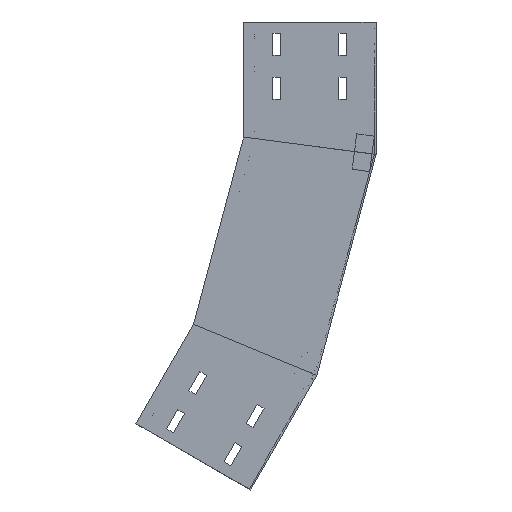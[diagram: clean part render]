
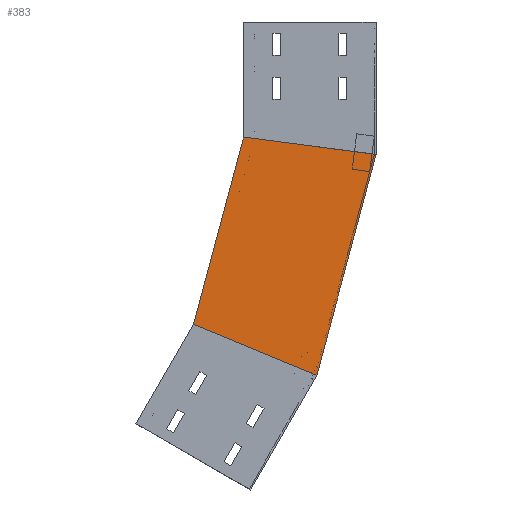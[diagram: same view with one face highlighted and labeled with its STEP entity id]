
A CAD part, left-side view. The second image highlights one B-rep face of the part: STEP entity #383.
In plain terms, the highlighted planar face has unit normal (-1, 0, 0) as drawn and (1, 0, 0) by its records, which use the part's own axes.
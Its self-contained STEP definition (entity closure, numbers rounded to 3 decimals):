
#68 = FACE_OUTER_BOUND ( 'NONE', #1528, .T. ) ;
#81 = LINE ( 'NONE', #882, #321 ) ;
#95 = EDGE_CURVE ( 'NONE', #432, #1406, #1917, .T. ) ;
#321 = VECTOR ( 'NONE', #1649, 1000. ) ;
#383 = ADVANCED_FACE ( 'NONE', ( #68 ), #1190, .F. ) ;
#390 = ORIENTED_EDGE ( 'NONE', *, *, #1698, .T. ) ;
#432 = VERTEX_POINT ( 'NONE', #1692 ) ;
#505 = CARTESIAN_POINT ( 'NONE',  ( 0., 98.267, -387.238 ) ) ;
#510 = ORIENTED_EDGE ( 'NONE', *, *, #1660, .F. ) ;
#588 = VECTOR ( 'NONE', #1837, 1000. ) ;
#698 = CARTESIAN_POINT ( 'NONE',  ( 0., 67.034, -400.175 ) ) ;
#733 = VECTOR ( 'NONE', #979, 1000. ) ;
#882 = CARTESIAN_POINT ( 'NONE',  ( 0., 19.411, -147.444 ) ) ;
#912 = ORIENTED_EDGE ( 'NONE', *, *, #95, .F. ) ;
#949 = LINE ( 'NONE', #1546, #588 ) ;
#979 = DIRECTION ( 'NONE',  ( 0., -0.924, -0.383 ) ) ;
#1067 = AXIS2_PLACEMENT_3D ( 'NONE', #2015, #1257, #1103 ) ;
#1103 = DIRECTION ( 'NONE',  ( 0., 0., 1. ) ) ;
#1186 = DIRECTION ( 'NONE',  ( 0., 0.259, -0.966 ) ) ;
#1190 = PLANE ( 'NONE',  #1067 ) ;
#1257 = DIRECTION ( 'NONE',  ( -1., 0., 0. ) ) ;
#1400 = CARTESIAN_POINT ( 'NONE',  ( 0., 0., -150. ) ) ;
#1406 = VERTEX_POINT ( 'NONE', #698 ) ;
#1508 = CARTESIAN_POINT ( 'NONE',  ( 0., 150., -130.252 ) ) ;
#1528 = EDGE_LOOP ( 'NONE', ( #510, #1915, #390, #912 ) ) ;
#1533 = EDGE_CURVE ( 'NONE', #1593, #1759, #81, .T. ) ;
#1546 = CARTESIAN_POINT ( 'NONE',  ( 0., 0., -150. ) ) ;
#1593 = VERTEX_POINT ( 'NONE', #1508 ) ;
#1649 = DIRECTION ( 'NONE',  ( 0., -0.991, -0.131 ) ) ;
#1660 = EDGE_CURVE ( 'NONE', #1593, #432, #1819, .T. ) ;
#1666 = CARTESIAN_POINT ( 'NONE',  ( 0., 144.889, -111.177 ) ) ;
#1692 = CARTESIAN_POINT ( 'NONE',  ( 0., 206.812, -342.277 ) ) ;
#1698 = EDGE_CURVE ( 'NONE', #1759, #1406, #949, .T. ) ;
#1759 = VERTEX_POINT ( 'NONE', #1400 ) ;
#1819 = LINE ( 'NONE', #1666, #1865 ) ;
#1837 = DIRECTION ( 'NONE',  ( 0., 0.259, -0.966 ) ) ;
#1865 = VECTOR ( 'NONE', #1186, 1000. ) ;
#1915 = ORIENTED_EDGE ( 'NONE', *, *, #1533, .T. ) ;
#1917 = LINE ( 'NONE', #505, #733 ) ;
#2015 = CARTESIAN_POINT ( 'NONE',  ( 0., 0., -150. ) ) ;
